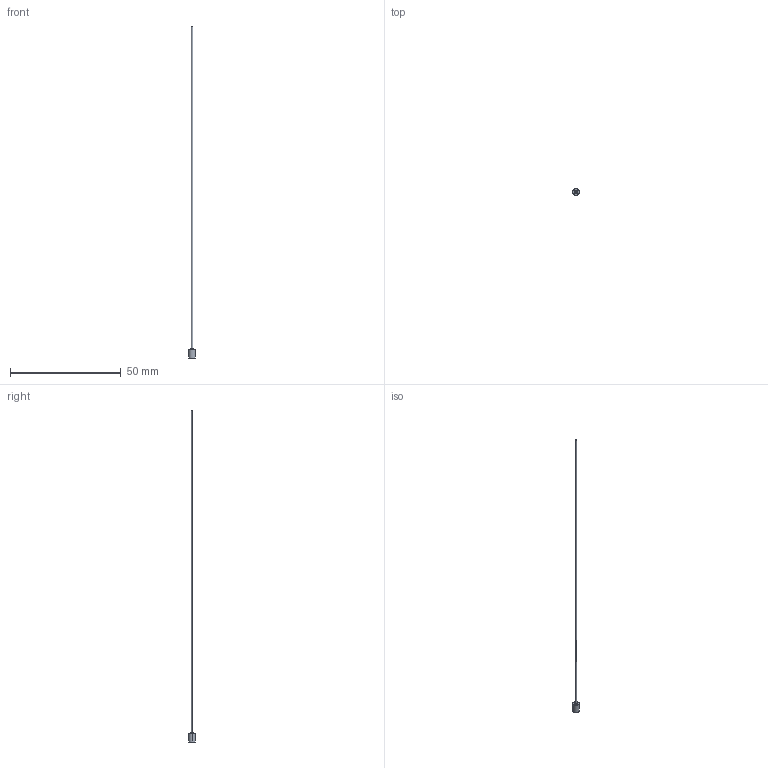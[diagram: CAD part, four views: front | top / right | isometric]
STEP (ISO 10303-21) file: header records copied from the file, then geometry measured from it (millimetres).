
FILE_DESCRIPTION (( 'STEP AP214' ), '1' );
FILE_NAME ('EPH0.9-150.step', '2024-04-11T21:06:06', ( '' ), ( '' ), 'SwSTEP 2.0', 'SolidWorks 2017', '' );
FILE_SCHEMA (( 'AUTOMOTIVE_DESIGN' ));
Length unit declared in the file: millimetre
Products named in the file (1): EPH0.9-150
Bounding box: 3 x 3 x 150 mm (x, y, z)
Volume: 121.2 mm3; surface area: 464.3 mm2
Topology: 1 solids, 1 shells, 9 faces, 16 edges, 10 vertices
Faces by surface type: cylinder 4, plane 3, torus 2
Entity records: 260 total; most frequent: DIRECTION 48, CARTESIAN_POINT 36, ORIENTED_EDGE 32, AXIS2_PLACEMENT_3D 22, EDGE_CURVE 16, CIRCLE 12, VERTEX_POINT 10, EDGE_LOOP 10
